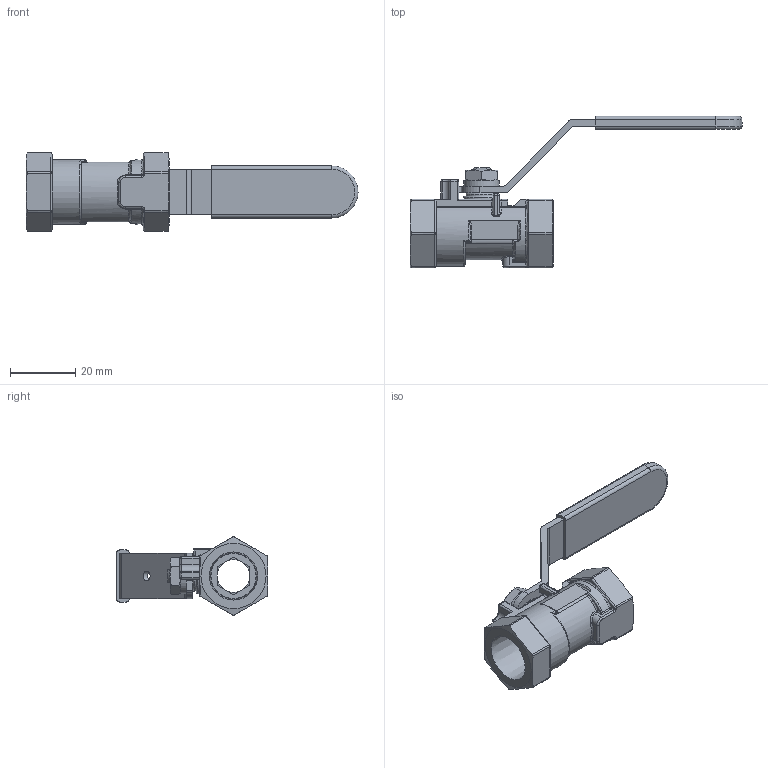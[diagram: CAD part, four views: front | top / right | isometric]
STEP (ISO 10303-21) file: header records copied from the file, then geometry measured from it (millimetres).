
FILE_DESCRIPTION((''),'2;1');
FILE_NAME('F:\Drawings\OneDrive - Avco Valve\Derek\100 Series\Machine Drawings\3D Insertables\100 Series\100-SE-038-LH.stp','2022-10-07T09:22:05',('dKouns'),(''),'Autodesk Inventor 2012','Autodesk Inventor 2012','');
FILE_SCHEMA(('AUTOMOTIVE_DESIGN { 1 0 10303 214 1 1 1 1 }'));
Length unit declared in the file: millimetre
Products named in the file (6): 100-SE-038-LH; 100-SE-038; 100-038-HANDLE; 100-038-SLEEVE; M6 Jam Nut; M6 Washer
Assembly tree (5 placements, depth 2):
  100-SE-038-LH
    100-SE-038
    100-038-HANDLE
    100-038-SLEEVE
    M6 Jam Nut
    M6 Washer
Bounding box: 102 x 46.5 x 24.09 mm (x, y, z)
Volume: 13491.5 mm3; surface area: 12599.6 mm2
Topology: 5 solids, 5 shells, 633 faces, 1636 edges, 1048 vertices
Faces by surface type: plane 250, bspline 201, cylinder 107, torus 30, sphere 24, cone 21
Full cylindrical faces by diameter (mm): 3 x1, 6.4 x1, 9.5 x1, 10 x1, 11 x2, 13.889 x2
Entity records: 22283 total; most frequent: CARTESIAN_POINT 8156, ORIENTED_EDGE 3208, DIRECTION 2281, EDGE_CURVE 1604, VERTEX_POINT 1037, VECTOR 799, LINE 799, AXIS2_PLACEMENT_3D 741
